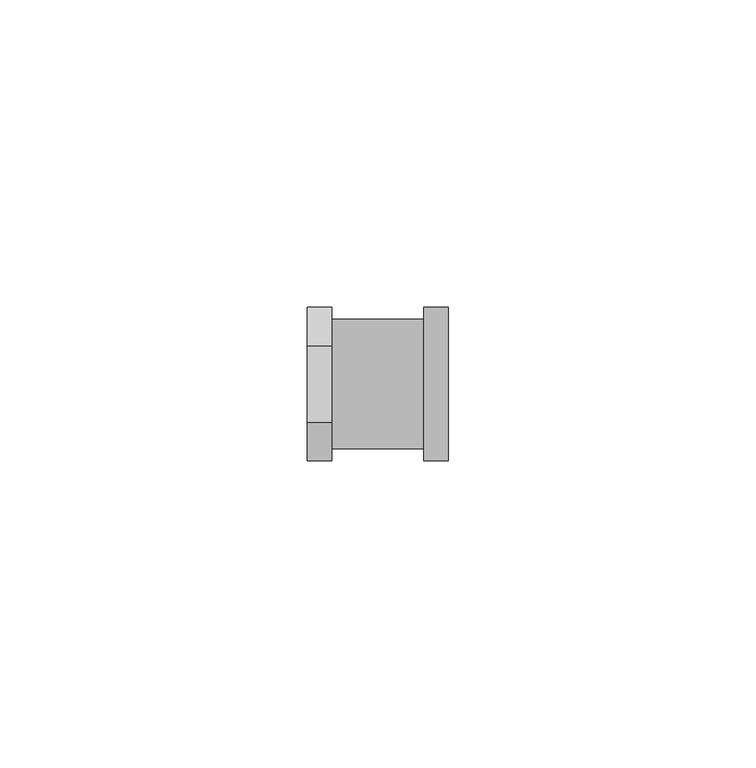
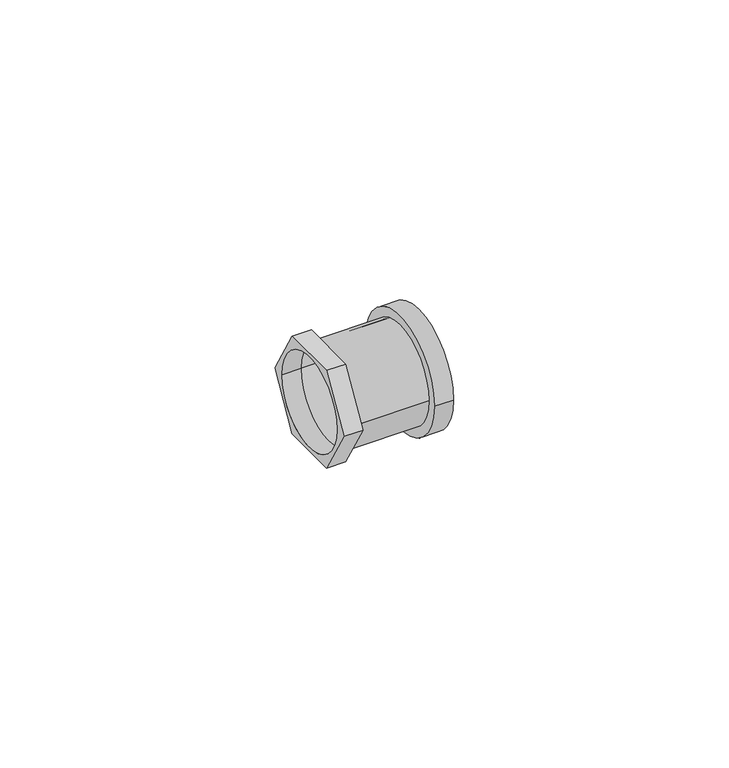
"""IFC4 building model written with IfcOpenShell, lengths in millimetres: pipe fitting geometry, БИР ПЕКС_НПР_Соединитель_Гайка накидная : Соединитель прямой с накидной гайкой."""

import ifcopenshell
import ifcopenshell.guid

model = None  # the IFC model being written
_history = None  # IfcOwnerHistory: only IFC2X3 demands one
_inside = {}  # id of a spatial element -> (the spatial element, [elements in it])
_under = {}  # id of a project, library or spatial element -> (it, [spatial elements below it])
_declared = {}  # id of a project -> (the project, [libraries it declares])
_typed = {}  # id of a type object -> (the type object, [elements of that type])
_made_of = {}  # id of a material, layer set ... -> (it, [elements and type objects made of it])


def new_model(schema):
    """Start an empty IFC model of exactly this schema.

    Asked for "IFC4X3", IfcOpenShell would pick the latest addendum, in which some entities
    have other attributes; the version numbers below select the first issue.
    IFC2X3 requires an IfcOwnerHistory on every rooted entity: one is made here for all.
    """
    global model, _history
    if schema == "IFC4X3":
        model = ifcopenshell.file(schema_version=(4, 3, 0, 0))
    else:
        model = ifcopenshell.file(schema=schema)
    _inside.clear()
    _under.clear()
    _declared.clear()
    _typed.clear()
    _made_of.clear()
    _history = None
    if model.schema == "IFC2X3":
        org = make("IfcOrganization", Name="unknown")
        user = make(
            "IfcPersonAndOrganization",
            ThePerson=make("IfcPerson", FamilyName="unknown"),
            TheOrganization=org,
        )
        app = make(
            "IfcApplication",
            ApplicationDeveloper=org,
            Version="unknown",
            ApplicationFullName="unknown",
            ApplicationIdentifier="unknown",
        )
        _history = make(
            "IfcOwnerHistory",
            OwningUser=user,
            OwningApplication=app,
            ChangeAction="ADDED",
            CreationDate=0,
        )
    return model


def make(cls, **values):
    """One entity of the class cls with the attributes given. An attribute that is None is left unset."""
    return model.create_entity(
        cls, **{name: value for name, value in values.items() if value is not None}
    )


def rooted(cls, **values):
    """An entity with a GlobalId (a new one), such as an element, a storey or a relation."""
    return make(cls, GlobalId=ifcopenshell.guid.new(), OwnerHistory=_history, **values)


def si_unit(unit_type, name, prefix=None):
    """IfcSIUnit, for example si_unit("LENGTHUNIT", "METRE", prefix="MILLI")."""
    return make("IfcSIUnit", UnitType=unit_type, Prefix=prefix, Name=name)


def assignment(units):
    """IfcUnitAssignment: the units of a project."""
    return None if units is None else make("IfcUnitAssignment", Units=units)


def point(xyz):
    """IfcCartesianPoint."""
    return None if xyz is None else make("IfcCartesianPoint", Coordinates=xyz)


def direction(xyz):
    """IfcDirection."""
    return None if xyz is None else make("IfcDirection", DirectionRatios=xyz)


def frame(location, z_axis=None, x_axis=None):
    """IfcAxis2Placement3D, a coordinate frame: its origin and axes. An axis left out is left unset."""
    return make(
        "IfcAxis2Placement3D",
        Location=point(location),
        Axis=direction(z_axis),
        RefDirection=direction(x_axis),
    )


def frame_2d(location, x_axis=None):
    """IfcAxis2Placement2D, a coordinate frame in the plane: its origin and x axis."""
    return make(
        "IfcAxis2Placement2D", Location=point(location), RefDirection=direction(x_axis)
    )


def origin():
    """The frame at (0, 0, 0) with its axes left unset."""
    return frame((0.0, 0.0, 0.0))


def origin_2d():
    """The frame at (0, 0) in the plane with its x axis left unset."""
    return frame_2d((0.0, 0.0))


def place(relative_to, where):
    """IfcLocalPlacement: puts the frame where relative to a parent placement (None: the world)."""
    return make(
        "IfcLocalPlacement", PlacementRelTo=relative_to, RelativePlacement=where
    )


def context(
    kind, dimensions, precision=None, world=None, true_north=None, identifier=None
):
    """IfcGeometricRepresentationContext, for example the 3D "Model" context."""
    return make(
        "IfcGeometricRepresentationContext",
        ContextIdentifier=identifier,
        ContextType=kind,
        CoordinateSpaceDimension=dimensions,
        Precision=precision,
        WorldCoordinateSystem=world,
        TrueNorth=true_north,
    )


def project(units=None, contexts=None):
    """IfcProject with its units and contexts."""
    return rooted(
        "IfcProject",
        Name="project",
        RepresentationContexts=contexts,
        UnitsInContext=assignment(units),
    )


def spatial(cls, under=None, at=None, **own):
    """A site, building, storey or space (cls), placed at a placement, below another one or the project."""
    s = rooted(cls, ObjectPlacement=at, **own)
    if under is not None:
        _under.setdefault(under.id(), (under, []))[1].append(s)
    return s


def polyline(points):
    """IfcPolyline through the points."""
    return make("IfcPolyline", Points=[point(p) for p in points])


def circle_curve(where, radius):
    """IfcCircle in the frame where."""
    return make("IfcCircle", Position=where, Radius=radius)


def trimmed(basis, trim1, trim2, sense, master):
    """IfcTrimmedCurve: the piece of a basis curve between two trims."""
    return make(
        "IfcTrimmedCurve",
        BasisCurve=basis,
        Trim1=trim1,
        Trim2=trim2,
        SenseAgreement=sense,
        MasterRepresentation=master,
    )


def segment(curve, same_sense, transition):
    """IfcCompositeCurveSegment."""
    return make(
        "IfcCompositeCurveSegment",
        Transition=transition,
        SameSense=same_sense,
        ParentCurve=curve,
    )


def composite_curve(segments, self_intersect=None):
    """IfcCompositeCurve: segments joined end to end."""
    return make("IfcCompositeCurve", Segments=segments, SelfIntersect=self_intersect)


def outline(outer, holes=None, kind="AREA"):
    """IfcArbitraryClosedProfileDef: a profile drawn as a closed curve; with holes, ...WithVoids."""
    if holes is None:
        return make("IfcArbitraryClosedProfileDef", ProfileType=kind, OuterCurve=outer)
    return make(
        "IfcArbitraryProfileDefWithVoids",
        ProfileType=kind,
        OuterCurve=outer,
        InnerCurves=holes,
    )


def extrude(swept, where, along, depth):
    """IfcExtrudedAreaSolid: the profile swept, set in the frame where, extruded along a direction by depth."""
    return make(
        "IfcExtrudedAreaSolid",
        SweptArea=swept,
        Position=where,
        ExtrudedDirection=direction(along),
        Depth=depth,
    )


def shape(context_of_items, identifier, shape_type, items):
    """IfcShapeRepresentation: the items that make up one representation, for example the "Body"."""
    return make(
        "IfcShapeRepresentation",
        ContextOfItems=context_of_items,
        RepresentationIdentifier=identifier,
        RepresentationType=shape_type,
        Items=items,
    )


def source(mapping_origin, context_of_items, identifier, shape_type, items):
    """IfcRepresentationMap: a shape defined once, which mapped items show again and again."""
    return make(
        "IfcRepresentationMap",
        MappingOrigin=mapping_origin,
        MappedRepresentation=shape(context_of_items, identifier, shape_type, items),
    )


def transform(
    local_origin,
    x_axis=None,
    y_axis=None,
    z_axis=None,
    scale=None,
    scale2=None,
    scale3=None,
    uniform=True,
):
    """IfcCartesianTransformationOperator3D, or its non-uniform kind. x_axis, y_axis, z_axis: its Axis1, 2, 3."""
    if uniform:
        return make(
            "IfcCartesianTransformationOperator3D",
            Axis1=direction(x_axis),
            Axis2=direction(y_axis),
            LocalOrigin=point(local_origin),
            Scale=scale,
            Axis3=direction(z_axis),
        )
    return make(
        "IfcCartesianTransformationOperator3DnonUniform",
        Axis1=direction(x_axis),
        Axis2=direction(y_axis),
        LocalOrigin=point(local_origin),
        Scale=scale,
        Axis3=direction(z_axis),
        Scale2=scale2,
        Scale3=scale3,
    )


def mapped(mapping_source, mapping_target):
    """IfcMappedItem: shows the shape of a source again, moved by a transform."""
    return make(
        "IfcMappedItem", MappingSource=mapping_source, MappingTarget=mapping_target
    )


def made_of(thing, what):
    """Note that an element or type object is made of a material, layer set ...; save() writes the relation."""
    if what is not None:
        _made_of.setdefault(what.id(), (what, []))[1].append(thing)
    return thing


def element(
    cls,
    number,
    at=None,
    inside=None,
    cuts=None,
    type_object=None,
    material=None,
    context=None,
    identifier="Body",
    shape_type=None,
    held_by="IfcProductDefinitionShape",
    body=None,
    shapes=None,
    **own,
):
    """One element of the class cls, such as IfcWall. Its Tag is "e" and its number.

    at: its placement. inside: the storey or other place that contains it. cuts: it is an
    opening in that element (IfcRelVoidsElement). A single representation is given by context,
    identifier, shape_type and body (its items); several are given by shapes. held_by: the class
    of the entity that holds the representations. save() writes the other relations.
    """
    e = rooted(cls, Tag="e%d" % number, ObjectPlacement=at, **own)
    if body is not None:
        shapes = [shape(context, identifier, shape_type, body)]
    if shapes is not None:
        e.Representation = make(held_by, Representations=shapes)
    if inside is not None:
        _inside.setdefault(inside.id(), (inside, []))[1].append(e)
    if cuts is not None:
        rooted(
            "IfcRelVoidsElement", RelatingBuildingElement=cuts, RelatedOpeningElement=e
        )
    if type_object is not None:
        _typed.setdefault(type_object.id(), (type_object, []))[1].append(e)
    return made_of(e, material)


def aggregate(whole, parts):
    """IfcRelAggregates: a whole, such as a stair, and the parts it consists of."""
    return rooted("IfcRelAggregates", RelatingObject=whole, RelatedObjects=parts)


def save(model, path):
    """Write the relations noted so far, then the file.

    IfcRelAggregates (storeys below a building ...), IfcRelContainedInSpatialStructure (elements
    in a storey), IfcRelDefinesByType, IfcRelAssociatesMaterial and IfcRelDeclares: one each for
    every whole, place, type object, material and project.
    """
    for whole, parts in _under.values():
        aggregate(whole, parts)
    for where, things in _inside.values():
        rooted(
            "IfcRelContainedInSpatialStructure",
            RelatedElements=things,
            RelatingStructure=where,
        )
    for kind, things in _typed.values():
        rooted("IfcRelDefinesByType", RelatedObjects=things, RelatingType=kind)
    for what, things in _made_of.values():
        rooted("IfcRelAssociatesMaterial", RelatedObjects=things, RelatingMaterial=what)
    for by, libraries in _declared.values():
        rooted("IfcRelDeclares", RelatingContext=by, RelatedDefinitions=libraries)
    model.write(path)


def pipe_fitting_ccf91543(model_context):
    return source(origin(), model_context, "Body", "SweptSolid", [
        extrude(outline(polyline([(-6.25, -10.8253175), (-12.5, 0.0), (-6.25, 10.8253175), (6.25, 10.8253175), (12.5, 0.0), (6.25, -10.8253175), (-6.25, -10.8253175)]), holes=[composite_curve([segment(trimmed(circle_curve(origin_2d(), 10.0), [point((-10.0, 0.0))], [point((10.0, 0.0))], True, "CARTESIAN"), True, "CONTINUOUS"), segment(trimmed(circle_curve(origin_2d(), 10.0), [point((10.0, 0.0))], [point((-10.0, 0.0))], True, "CARTESIAN"), True, "CONTINUOUS")], self_intersect=False)]), frame((-11.5, 0.0, 0.0), z_axis=(1.0, 0.0, 0.0), x_axis=(0.0, 1.0, 0.0)), (0.0, 0.0, 1.0), 4.0),
        extrude(outline(composite_curve([segment(trimmed(circle_curve(origin_2d(), 10.5), [point((-10.5, 0.0))], [point((10.5, 0.0))], False, "CARTESIAN"), True, "CONTINUOUS"), segment(trimmed(circle_curve(origin_2d(), 10.5), [point((10.5, 0.0))], [point((-10.5, 0.0))], False, "CARTESIAN"), True, "CONTINUOUS")], self_intersect=False), holes=[composite_curve([segment(trimmed(circle_curve(origin_2d(), 10.0), [point((-10.0, 0.0))], [point((10.0, 0.0))], True, "CARTESIAN"), True, "CONTINUOUS"), segment(trimmed(circle_curve(origin_2d(), 10.0), [point((10.0, 0.0))], [point((-10.0, 0.0))], True, "CARTESIAN"), True, "CONTINUOUS")], self_intersect=False)]), frame((-7.5, 0.0, 0.0), z_axis=(1.0, 0.0, 0.0), x_axis=(0.0, 1.0, 0.0)), (0.0, 0.0, 1.0), 15.0),
        extrude(outline(composite_curve([segment(trimmed(circle_curve(origin_2d(), 12.5), [point((-12.5, 0.0))], [point((12.5, 0.0))], False, "CARTESIAN"), True, "CONTINUOUS"), segment(trimmed(circle_curve(origin_2d(), 12.5), [point((12.5, 0.0))], [point((-12.5, 0.0))], False, "CARTESIAN"), True, "CONTINUOUS")], self_intersect=False), holes=[composite_curve([segment(trimmed(circle_curve(origin_2d(), 10.0), [point((-10.0, 0.0))], [point((10.0, 0.0))], True, "CARTESIAN"), True, "CONTINUOUS"), segment(trimmed(circle_curve(origin_2d(), 10.0), [point((10.0, 0.0))], [point((-10.0, 0.0))], True, "CARTESIAN"), True, "CONTINUOUS")], self_intersect=False)]), frame((7.5, 0.0, 0.0), z_axis=(1.0, 0.0, 0.0), x_axis=(0.0, 1.0, 0.0)), (0.0, 0.0, 1.0), 4.0),
    ])


if __name__ == "__main__":
    model = new_model("IFC4")
    model_context = context("Model", 3, world=origin())
    ifc_project = project(units=[si_unit("LENGTHUNIT", "METRE", prefix="MILLI")], contexts=[model_context])
    site = spatial("IfcSite", under=ifc_project)
    building = spatial("IfcBuilding", under=site)
    placement = place(None, origin())
    pipe_fitting_shape = pipe_fitting_ccf91543(model_context)
    element("IfcPipeFitting", 1, ObjectType="БИР ПЕКС_НПР_Соединитель_Гайка накидная : Соединитель прямой с накидной гайкой", at=placement, inside=building, context=model_context, shape_type="MappedRepresentation", body=[
        mapped(pipe_fitting_shape, transform((0.0, 0.0, 0.0), x_axis=(1.0, 0.0, 0.0), y_axis=(0.0, 1.0, 0.0), z_axis=(0.0, 0.0, 1.0))),
    ])
    save(model, "model.ifc")
